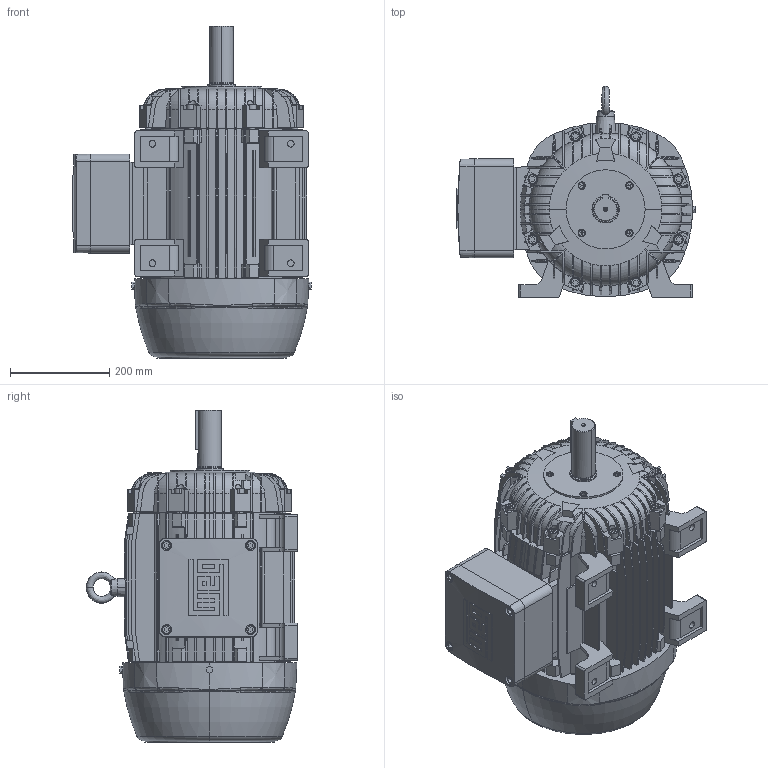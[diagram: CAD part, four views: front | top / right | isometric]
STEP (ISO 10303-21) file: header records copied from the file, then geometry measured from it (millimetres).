
FILE_DESCRIPTION (( 'STEP AP203' ), '1' );
FILE_NAME ('284T_LEFT.STEP', '2011-03-01T14:19:10', ( 'Weg Equipamentos Eletricos S.A.' ), ( 'Weg Equipamentos Eletricos S.A.' ), 'SwSTEP 2.0', 'SolidWorks 2009', '' );
FILE_SCHEMA (( 'CONFIG_CONTROL_DESIGN' ));
Length unit declared in the file: millimetre
Products named in the file (1): 284T_LEFT
Bounding box: 482.5 x 426.8 x 670.68 mm (x, y, z)
Volume: 28717385.5 mm3; surface area: 2435395.7 mm2
Topology: 10 solids, 11 shells, 1727 faces, 4682 edges, 3049 vertices
Faces by surface type: plane 1158, cone 209, cylinder 191, torus 95, bspline 72, sphere 2
Entity records: 68417 total; most frequent: CARTESIAN_POINT 25361, ORIENTED_EDGE 9344, DIRECTION 8509, EDGE_CURVE 4672, VERTEX_POINT 3049, AXIS2_PLACEMENT_3D 2894, VECTOR 2721, LINE 2721
